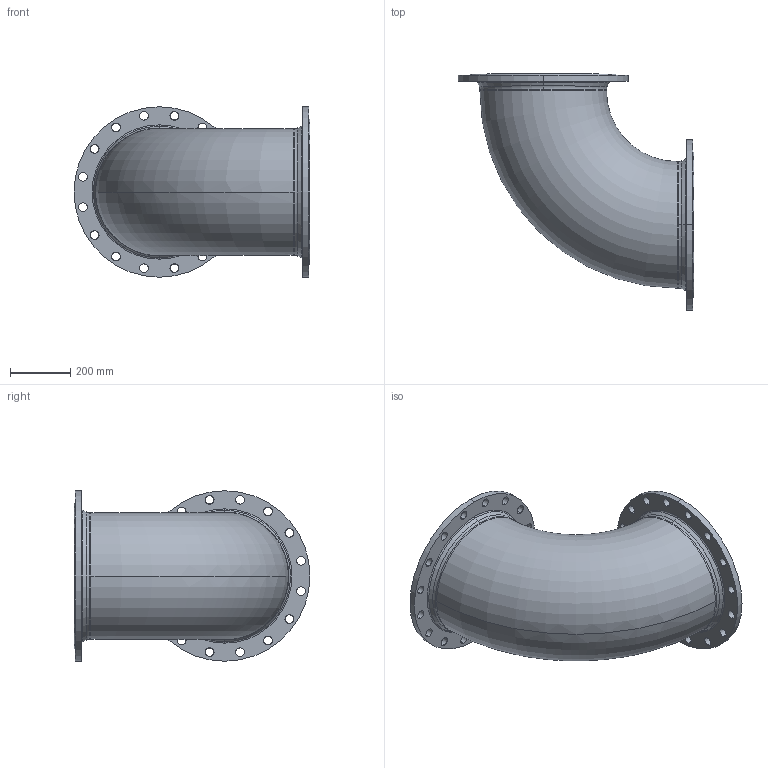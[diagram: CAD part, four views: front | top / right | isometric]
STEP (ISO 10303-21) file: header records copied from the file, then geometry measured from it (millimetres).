
FILE_DESCRIPTION (( 'STEP AP203' ), '1' );
FILE_NAME ('O_712_0610_DN400_0X_REV01.step', '2021-11-19T10:19:05', ( '' ), ( '' ), 'SwSTEP 2.0', 'SolidWorks 2019', '' );
FILE_SCHEMA (( 'CONFIG_CONTROL_DESIGN' ));
Length unit declared in the file: millimetre
Products named in the file (1): O_712_0610_DN400_0X_REV01
Bounding box: 782.5 x 782.5 x 565 mm (x, y, z)
Surface area: 3444138.7 mm2 (no closed solid volume)
Topology: 0 solids, 2 shells, 181 faces, 531 edges, 328 vertices
Faces by surface type: cylinder 78, plane 73, torus 18, cone 12
Entity records: 6457 total; most frequent: CARTESIAN_POINT 1327, DIRECTION 1153, ORIENTED_EDGE 1058, EDGE_CURVE 531, AXIS2_PLACEMENT_3D 514, CIRCLE 332, VERTEX_POINT 328, EDGE_LOOP 223
